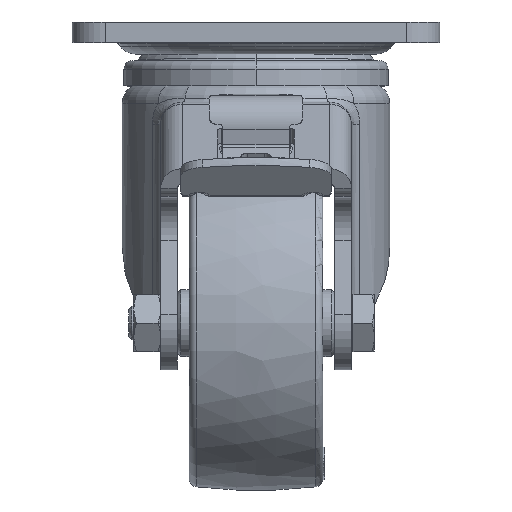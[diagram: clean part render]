
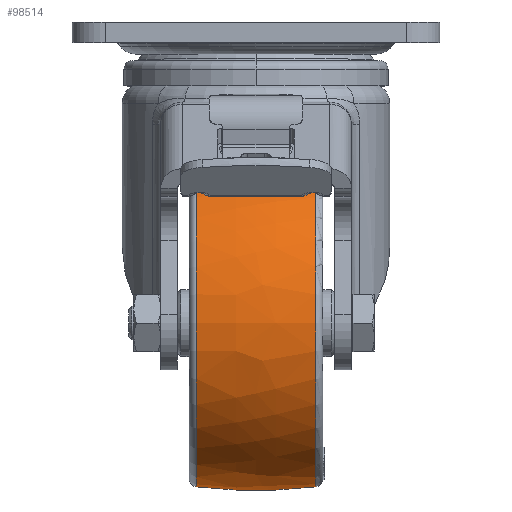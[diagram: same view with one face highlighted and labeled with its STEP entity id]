
A CAD part, top view. The second image highlights one B-rep face of the part: STEP entity #98514.
In plain terms, the highlighted free-form (B-spline) face has degree [3, 3] with [7, 4] control points.
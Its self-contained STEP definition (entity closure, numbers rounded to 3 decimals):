
#655 = CARTESIAN_POINT ( 'NONE',  ( 18.505, -30.065, -48.854 ) ) ;
#6845 = DIRECTION ( 'NONE',  ( 0., 1., 0. ) ) ;
#10127 = CARTESIAN_POINT ( 'NONE',  ( -17.797, 48.941, 0. ) ) ;
#10871 = EDGE_LOOP ( 'NONE', ( #87263, #65032, #13454, #129283 ) ) ;
#11595 = CARTESIAN_POINT ( 'NONE',  ( 6.2, 0., -50.384 ) ) ;
#12226 =( BOUNDED_SURFACE ( )  B_SPLINE_SURFACE ( 3, 3, ( 
 ( #125722, #74212, #63262, #21149 ),
 ( #85162, #53648, #83332, #53187 ),
 ( #126183, #52309, #83764, #655 ),
 ( #73775, #64168, #11595, #94296 ),
 ( #21593, #32172, #126636, #84684 ),
 ( #31275, #124836, #84227, #32648 ),
 ( #135308, #63712, #31724, #114809 ) ),
 .UNSPECIFIED., .F., .F., .T. ) 
 B_SPLINE_SURFACE_WITH_KNOTS ( ( 4, 3, 4 ),
 ( 4, 4 ),
 ( 0., 1., 2. ),
 ( 0., 1. ),
 .UNSPECIFIED. ) 
 GEOMETRIC_REPRESENTATION_ITEM ( )  RATIONAL_B_SPLINE_SURFACE ( (
 ( 1.192, 1.186, 1.186, 1.192),
 ( 0.941, 0.936, 0.936, 0.941),
 ( 0.941, 0.936, 0.936, 0.941),
 ( 1.192, 1.186, 1.186, 1.192),
 ( 0.941, 0.936, 0.936, 0.941),
 ( 0.941, 0.936, 0.936, 0.941),
 ( 1.192, 1.186, 1.186, 1.192) ) ) 
 REPRESENTATION_ITEM ( '' )  SURFACE ( )  );
#13454 = ORIENTED_EDGE ( 'NONE', *, *, #131082, .F. ) ;
#15212 = AXIS2_PLACEMENT_3D ( 'NONE', #93474, #19450, #113546 ) ;
#17826 = CARTESIAN_POINT ( 'NONE',  ( 17.797, 0., 0. ) ) ;
#19450 = DIRECTION ( 'NONE',  ( 0., 0., 1. ) ) ;
#21149 = CARTESIAN_POINT ( 'NONE',  ( 18.505, -48.758, 3.068 ) ) ;
#21593 = CARTESIAN_POINT ( 'NONE',  ( -18.505, 30.065, -48.854 ) ) ;
#23326 = CARTESIAN_POINT ( 'NONE',  ( 0., -100., 0. ) ) ;
#28165 = CIRCLE ( 'NONE', #92483, 48.941 ) ;
#31275 = CARTESIAN_POINT ( 'NONE',  ( -18.505, 50.646, -26.938 ) ) ;
#31724 = CARTESIAN_POINT ( 'NONE',  ( 6.2, 50.284, 3.164 ) ) ;
#32172 = CARTESIAN_POINT ( 'NONE',  ( -6.2, 31.006, -50.384 ) ) ;
#32648 = CARTESIAN_POINT ( 'NONE',  ( 18.505, 50.646, -26.938 ) ) ;
#40854 = CIRCLE ( 'NONE', #64970, 150. ) ;
#51953 = FACE_OUTER_BOUND ( 'NONE', #10871, .T. ) ;
#52309 = CARTESIAN_POINT ( 'NONE',  ( -6.2, -31.006, -50.384 ) ) ;
#53187 = CARTESIAN_POINT ( 'NONE',  ( 18.505, -50.646, -26.938 ) ) ;
#53648 = CARTESIAN_POINT ( 'NONE',  ( -6.2, -52.231, -27.781 ) ) ;
#54020 = DIRECTION ( 'NONE',  ( 0., 0., -1. ) ) ;
#56614 = CARTESIAN_POINT ( 'NONE',  ( -17.797, 0., 0. ) ) ;
#59198 = CARTESIAN_POINT ( 'NONE',  ( 17.797, 48.941, 0. ) ) ;
#63262 = CARTESIAN_POINT ( 'NONE',  ( 6.2, -50.284, 3.164 ) ) ;
#63712 = CARTESIAN_POINT ( 'NONE',  ( -6.2, 50.284, 3.164 ) ) ;
#64168 = CARTESIAN_POINT ( 'NONE',  ( -6.2, 0., -50.384 ) ) ;
#64970 = AXIS2_PLACEMENT_3D ( 'NONE', #23326, #54020, #95109 ) ;
#65032 = ORIENTED_EDGE ( 'NONE', *, *, #87803, .T. ) ;
#67049 = CARTESIAN_POINT ( 'NONE',  ( 17.797, -48.941, 0. ) ) ;
#69287 = AXIS2_PLACEMENT_3D ( 'NONE', #17826, #131900, #6845 ) ;
#69410 = EDGE_CURVE ( 'NONE', #84858, #133616, #40854, .T. ) ;
#70594 = VERTEX_POINT ( 'NONE', #88344 ) ;
#73775 = CARTESIAN_POINT ( 'NONE',  ( -18.505, 0., -48.854 ) ) ;
#74212 = CARTESIAN_POINT ( 'NONE',  ( -6.2, -50.284, 3.164 ) ) ;
#83332 = CARTESIAN_POINT ( 'NONE',  ( 6.2, -52.231, -27.781 ) ) ;
#83764 = CARTESIAN_POINT ( 'NONE',  ( 6.2, -31.006, -50.384 ) ) ;
#84003 = VERTEX_POINT ( 'NONE', #67049 ) ;
#84227 = CARTESIAN_POINT ( 'NONE',  ( 6.2, 52.231, -27.781 ) ) ;
#84684 = CARTESIAN_POINT ( 'NONE',  ( 18.505, 30.065, -48.854 ) ) ;
#84858 = VERTEX_POINT ( 'NONE', #10127 ) ;
#85162 = CARTESIAN_POINT ( 'NONE',  ( -18.505, -50.646, -26.938 ) ) ;
#87263 = ORIENTED_EDGE ( 'NONE', *, *, #69410, .T. ) ;
#87803 = EDGE_CURVE ( 'NONE', #133616, #84003, #101724, .T. ) ;
#88344 = CARTESIAN_POINT ( 'NONE',  ( -17.797, -48.941, 0. ) ) ;
#89873 = DIRECTION ( 'NONE',  ( 0., 1., 0. ) ) ;
#92483 = AXIS2_PLACEMENT_3D ( 'NONE', #56614, #99045, #89873 ) ;
#93474 = CARTESIAN_POINT ( 'NONE',  ( 0., 100., 0. ) ) ;
#94296 = CARTESIAN_POINT ( 'NONE',  ( 18.505, 0., -48.854 ) ) ;
#95109 = DIRECTION ( 'NONE',  ( -0.119, 0.993, 0. ) ) ;
#98514 = ADVANCED_FACE ( 'NONE', ( #51953 ), #12226, .T. ) ;
#99045 = DIRECTION ( 'NONE',  ( -1., 0., 0. ) ) ;
#101724 = CIRCLE ( 'NONE', #69287, 48.941 ) ;
#102173 = EDGE_CURVE ( 'NONE', #84858, #70594, #28165, .T. ) ;
#113073 = CIRCLE ( 'NONE', #15212, 150. ) ;
#113546 = DIRECTION ( 'NONE',  ( -0.119, -0.993, 0. ) ) ;
#114809 = CARTESIAN_POINT ( 'NONE',  ( 18.505, 48.758, 3.068 ) ) ;
#124836 = CARTESIAN_POINT ( 'NONE',  ( -6.2, 52.231, -27.781 ) ) ;
#125722 = CARTESIAN_POINT ( 'NONE',  ( -18.505, -48.758, 3.068 ) ) ;
#126183 = CARTESIAN_POINT ( 'NONE',  ( -18.505, -30.065, -48.854 ) ) ;
#126636 = CARTESIAN_POINT ( 'NONE',  ( 6.2, 31.006, -50.384 ) ) ;
#129283 = ORIENTED_EDGE ( 'NONE', *, *, #102173, .F. ) ;
#131082 = EDGE_CURVE ( 'NONE', #70594, #84003, #113073, .T. ) ;
#131900 = DIRECTION ( 'NONE',  ( -1., 0., 0. ) ) ;
#133616 = VERTEX_POINT ( 'NONE', #59198 ) ;
#135308 = CARTESIAN_POINT ( 'NONE',  ( -18.505, 48.758, 3.068 ) ) ;
